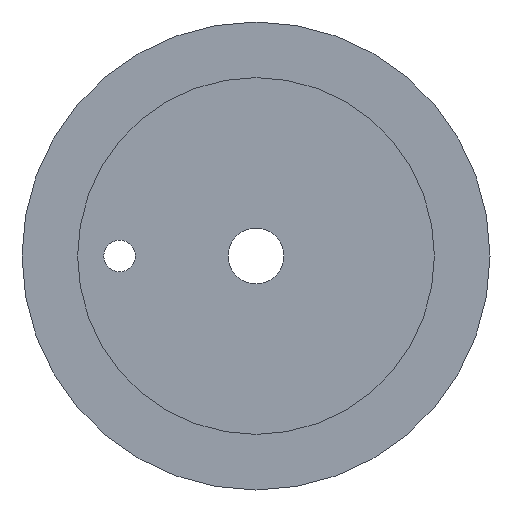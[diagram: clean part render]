
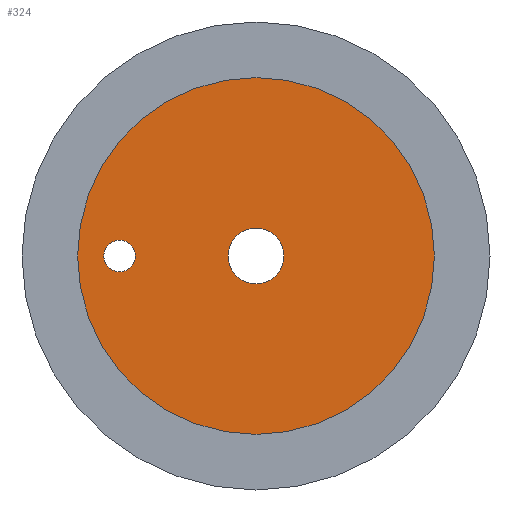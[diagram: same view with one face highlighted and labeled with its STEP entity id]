
A CAD part, left-side view. The second image highlights one B-rep face of the part: STEP entity #324.
In plain terms, the highlighted planar face has unit normal (-1, 0, 0).
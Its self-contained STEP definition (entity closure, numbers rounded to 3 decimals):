
#74 = CYLINDRICAL_SURFACE('',#75,2.65);
#75 = AXIS2_PLACEMENT_3D('',#76,#77,#78);
#76 = CARTESIAN_POINT('',(27.,36.,-45.));
#77 = DIRECTION('',(-1.,0.,0.));
#78 = DIRECTION('',(0.,0.,1.));
#179 = EDGE_CURVE('',#180,#180,#182,.T.);
#180 = VERTEX_POINT('',#181);
#181 = CARTESIAN_POINT('',(27.,36.,-42.35));
#182 = SURFACE_CURVE('',#183,(#188,#195),.PCURVE_S1.);
#183 = CIRCLE('',#184,2.65);
#184 = AXIS2_PLACEMENT_3D('',#185,#186,#187);
#185 = CARTESIAN_POINT('',(27.,36.,-45.));
#186 = DIRECTION('',(-1.,0.,0.));
#187 = DIRECTION('',(0.,0.,1.));
#188 = PCURVE('',#74,#189);
#189 = DEFINITIONAL_REPRESENTATION('',(#190),#194);
#190 = LINE('',#191,#192);
#191 = CARTESIAN_POINT('',(0.,0.));
#192 = VECTOR('',#193,1.);
#193 = DIRECTION('',(1.,0.));
#194 = ( GEOMETRIC_REPRESENTATION_CONTEXT(2) 
PARAMETRIC_REPRESENTATION_CONTEXT() REPRESENTATION_CONTEXT('2D SPACE',''
  ) );
#195 = PCURVE('',#196,#201);
#196 = PLANE('',#197);
#197 = AXIS2_PLACEMENT_3D('',#198,#199,#200);
#198 = CARTESIAN_POINT('',(27.,36.,-45.));
#199 = DIRECTION('',(-1.,0.,0.));
#200 = DIRECTION('',(0.,0.,1.));
#201 = DEFINITIONAL_REPRESENTATION('',(#202),#206);
#202 = CIRCLE('',#203,2.65);
#203 = AXIS2_PLACEMENT_2D('',#204,#205);
#204 = CARTESIAN_POINT('',(0.,0.));
#205 = DIRECTION('',(1.,0.));
#206 = ( GEOMETRIC_REPRESENTATION_CONTEXT(2) 
PARAMETRIC_REPRESENTATION_CONTEXT() REPRESENTATION_CONTEXT('2D SPACE',''
  ) );
#324 = ADVANCED_FACE('',(#325,#356,#387),#196,.T.);
#325 = FACE_BOUND('',#326,.T.);
#326 = EDGE_LOOP('',(#327));
#327 = ORIENTED_EDGE('',*,*,#328,.T.);
#328 = EDGE_CURVE('',#329,#329,#331,.T.);
#329 = VERTEX_POINT('',#330);
#330 = CARTESIAN_POINT('',(27.,36.,-28.));
#331 = SURFACE_CURVE('',#332,(#337,#344),.PCURVE_S1.);
#332 = CIRCLE('',#333,17.);
#333 = AXIS2_PLACEMENT_3D('',#334,#335,#336);
#334 = CARTESIAN_POINT('',(27.,36.,-45.));
#335 = DIRECTION('',(-1.,0.,0.));
#336 = DIRECTION('',(0.,0.,1.));
#337 = PCURVE('',#196,#338);
#338 = DEFINITIONAL_REPRESENTATION('',(#339),#343);
#339 = CIRCLE('',#340,17.);
#340 = AXIS2_PLACEMENT_2D('',#341,#342);
#341 = CARTESIAN_POINT('',(0.,0.));
#342 = DIRECTION('',(1.,0.));
#343 = ( GEOMETRIC_REPRESENTATION_CONTEXT(2) 
PARAMETRIC_REPRESENTATION_CONTEXT() REPRESENTATION_CONTEXT('2D SPACE',''
  ) );
#344 = PCURVE('',#345,#350);
#345 = CYLINDRICAL_SURFACE('',#346,17.);
#346 = AXIS2_PLACEMENT_3D('',#347,#348,#349);
#347 = CARTESIAN_POINT('',(27.,36.,-45.));
#348 = DIRECTION('',(-1.,0.,0.));
#349 = DIRECTION('',(0.,0.,1.));
#350 = DEFINITIONAL_REPRESENTATION('',(#351),#355);
#351 = LINE('',#352,#353);
#352 = CARTESIAN_POINT('',(0.,0.));
#353 = VECTOR('',#354,1.);
#354 = DIRECTION('',(1.,0.));
#355 = ( GEOMETRIC_REPRESENTATION_CONTEXT(2) 
PARAMETRIC_REPRESENTATION_CONTEXT() REPRESENTATION_CONTEXT('2D SPACE',''
  ) );
#356 = FACE_BOUND('',#357,.T.);
#357 = EDGE_LOOP('',(#358));
#358 = ORIENTED_EDGE('',*,*,#359,.F.);
#359 = EDGE_CURVE('',#360,#360,#362,.T.);
#360 = VERTEX_POINT('',#361);
#361 = CARTESIAN_POINT('',(27.,49.,-43.5));
#362 = SURFACE_CURVE('',#363,(#368,#375),.PCURVE_S1.);
#363 = CIRCLE('',#364,1.5);
#364 = AXIS2_PLACEMENT_3D('',#365,#366,#367);
#365 = CARTESIAN_POINT('',(27.,49.,-45.));
#366 = DIRECTION('',(-1.,0.,0.));
#367 = DIRECTION('',(0.,0.,1.));
#368 = PCURVE('',#196,#369);
#369 = DEFINITIONAL_REPRESENTATION('',(#370),#374);
#370 = CIRCLE('',#371,1.5);
#371 = AXIS2_PLACEMENT_2D('',#372,#373);
#372 = CARTESIAN_POINT('',(0.,13.));
#373 = DIRECTION('',(1.,0.));
#374 = ( GEOMETRIC_REPRESENTATION_CONTEXT(2) 
PARAMETRIC_REPRESENTATION_CONTEXT() REPRESENTATION_CONTEXT('2D SPACE',''
  ) );
#375 = PCURVE('',#376,#381);
#376 = CYLINDRICAL_SURFACE('',#377,1.5);
#377 = AXIS2_PLACEMENT_3D('',#378,#379,#380);
#378 = CARTESIAN_POINT('',(27.,49.,-45.));
#379 = DIRECTION('',(-1.,0.,0.));
#380 = DIRECTION('',(0.,0.,1.));
#381 = DEFINITIONAL_REPRESENTATION('',(#382),#386);
#382 = LINE('',#383,#384);
#383 = CARTESIAN_POINT('',(0.,0.));
#384 = VECTOR('',#385,1.);
#385 = DIRECTION('',(1.,0.));
#386 = ( GEOMETRIC_REPRESENTATION_CONTEXT(2) 
PARAMETRIC_REPRESENTATION_CONTEXT() REPRESENTATION_CONTEXT('2D SPACE',''
  ) );
#387 = FACE_BOUND('',#388,.T.);
#388 = EDGE_LOOP('',(#389));
#389 = ORIENTED_EDGE('',*,*,#179,.F.);
